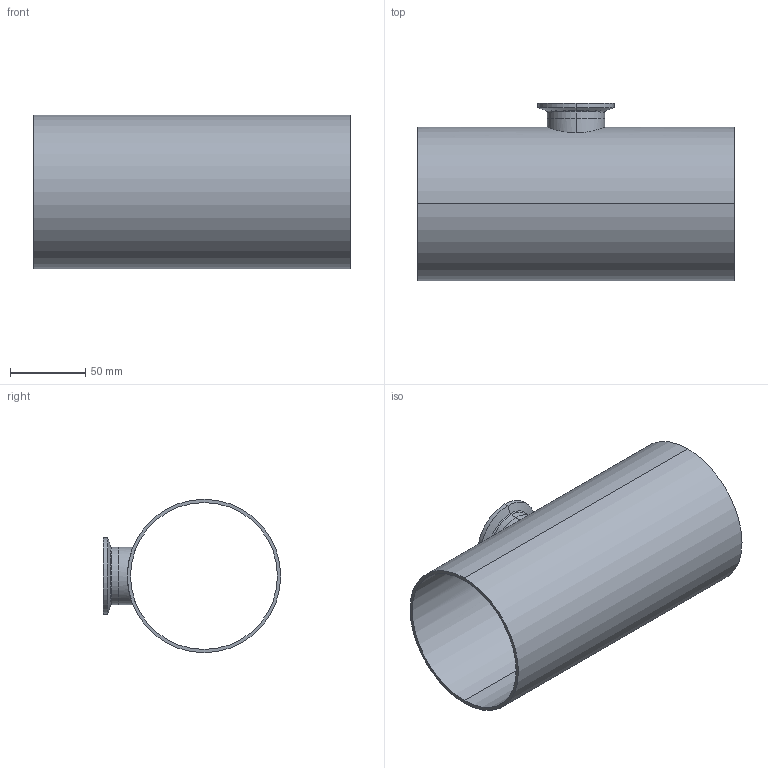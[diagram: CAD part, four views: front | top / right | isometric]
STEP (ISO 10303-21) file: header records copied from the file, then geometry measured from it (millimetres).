
FILE_DESCRIPTION (( 'STEP AP214' ), '1' );
FILE_NAME ('TE7RWWCS6L4.0x1.5-...STEP', '2016-05-23T12:28:57', ( 'eran' ), ( '' ), 'SwSTEP 2.0', 'SolidWorks 2016', '' );
FILE_SCHEMA (( 'AUTOMOTIVE_DESIGN' ));
Length unit declared in the file: millimetre
Products named in the file (1): TE7RWWCS6L4.0x1.5-..
Bounding box: 209.6 x 117.5 x 101.6 mm (x, y, z)
Volume: 142679.1 mm3; surface area: 136687.7 mm2
Topology: 2 solids, 2 shells, 36 faces, 88 edges, 58 vertices
Faces by surface type: cylinder 14, bspline 10, plane 6, cone 6
Entity records: 1966 total; most frequent: CARTESIAN_POINT 1061, DIRECTION 190, ORIENTED_EDGE 176, EDGE_CURVE 88, AXIS2_PLACEMENT_3D 85, CIRCLE 58, VERTEX_POINT 58, EDGE_LOOP 44
